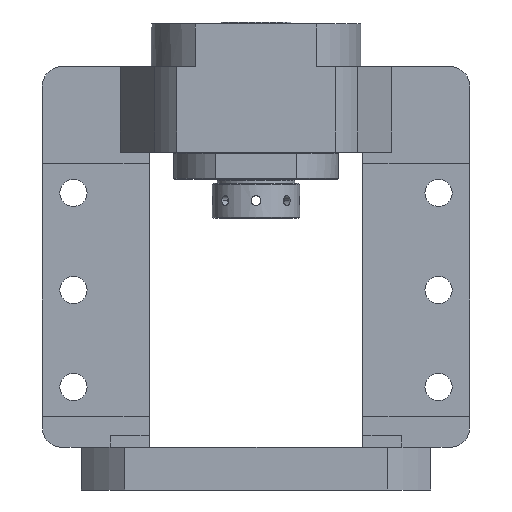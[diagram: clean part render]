
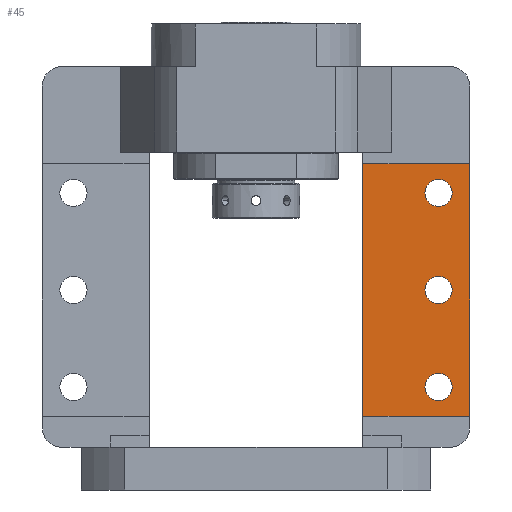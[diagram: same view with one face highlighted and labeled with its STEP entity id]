
A CAD part, front view. The second image highlights one B-rep face of the part: STEP entity #45.
In plain terms, the highlighted planar face has unit normal (0, -1, 0).
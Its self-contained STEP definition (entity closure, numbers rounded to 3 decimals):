
#45 = ADVANCED_FACE ( 'NONE', ( #12230, #15911, #11743, #7609 ), #473, .T. ) ;
#134 = ORIENTED_EDGE ( 'NONE', *, *, #649, .F. ) ;
#253 = DIRECTION ( 'NONE',  ( -1., 0., 0. ) ) ;
#260 = EDGE_CURVE ( 'NONE', #4722, #7947, #15419, .T. ) ;
#294 = VERTEX_POINT ( 'NONE', #8347 ) ;
#473 = PLANE ( 'NONE',  #2232 ) ;
#543 = DIRECTION ( 'NONE',  ( 0., 0., -1. ) ) ;
#608 = CARTESIAN_POINT ( 'NONE',  ( 110., 0., 225. ) ) ;
#649 = EDGE_CURVE ( 'NONE', #10225, #294, #19312, .T. ) ;
#897 = EDGE_CURVE ( 'NONE', #294, #10225, #16894, .T. ) ;
#1117 = EDGE_LOOP ( 'NONE', ( #3943, #134 ) ) ;
#1303 = DIRECTION ( 'NONE',  ( 0., 0., -1. ) ) ;
#1354 = CARTESIAN_POINT ( 'NONE',  ( 94., 0., 103. ) ) ;
#1492 = DIRECTION ( 'NONE',  ( 0., -1., 0. ) ) ;
#1558 = DIRECTION ( 'NONE',  ( 0., 0., -1. ) ) ;
#1979 = CIRCLE ( 'NONE', #10294, 7. ) ;
#2129 = DIRECTION ( 'NONE',  ( 1., 0., 0. ) ) ;
#2232 = AXIS2_PLACEMENT_3D ( 'NONE', #608, #9645, #8078 ) ;
#2838 = CARTESIAN_POINT ( 'NONE',  ( 94., 0., 60. ) ) ;
#2877 = CARTESIAN_POINT ( 'NONE',  ( 94., 0., 160. ) ) ;
#2998 = EDGE_CURVE ( 'NONE', #7947, #4722, #11187, .T. ) ;
#3278 = CARTESIAN_POINT ( 'NONE',  ( 55., 0., 38. ) ) ;
#3561 = ORIENTED_EDGE ( 'NONE', *, *, #19274, .F. ) ;
#3642 = ORIENTED_EDGE ( 'NONE', *, *, #10645, .F. ) ;
#3943 = ORIENTED_EDGE ( 'NONE', *, *, #897, .F. ) ;
#3964 = CARTESIAN_POINT ( 'NONE',  ( 94., 0., 53. ) ) ;
#4106 = DIRECTION ( 'NONE',  ( 0., 0., -1. ) ) ;
#4470 = CARTESIAN_POINT ( 'NONE',  ( 94., 0., 146. ) ) ;
#4722 = VERTEX_POINT ( 'NONE', #2838 ) ;
#4964 = VERTEX_POINT ( 'NONE', #14196 ) ;
#4983 = ORIENTED_EDGE ( 'NONE', *, *, #2998, .F. ) ;
#5566 = DIRECTION ( 'NONE',  ( 0., 0., -1. ) ) ;
#5983 = VERTEX_POINT ( 'NONE', #16276 ) ;
#5997 = EDGE_CURVE ( 'NONE', #5983, #7491, #9689, .T. ) ;
#6007 = LINE ( 'NONE', #8370, #14320 ) ;
#6665 = ORIENTED_EDGE ( 'NONE', *, *, #8690, .T. ) ;
#7021 = ORIENTED_EDGE ( 'NONE', *, *, #9968, .T. ) ;
#7119 = AXIS2_PLACEMENT_3D ( 'NONE', #7749, #18413, #1303 ) ;
#7256 = DIRECTION ( 'NONE',  ( 0., -1., 0. ) ) ;
#7491 = VERTEX_POINT ( 'NONE', #10588 ) ;
#7609 = FACE_OUTER_BOUND ( 'NONE', #16057, .T. ) ;
#7749 = CARTESIAN_POINT ( 'NONE',  ( 94., 0., 103. ) ) ;
#7947 = VERTEX_POINT ( 'NONE', #13240 ) ;
#8078 = DIRECTION ( 'NONE',  ( 0., 0., -1. ) ) ;
#8347 = CARTESIAN_POINT ( 'NONE',  ( 94., 0., 96. ) ) ;
#8370 = CARTESIAN_POINT ( 'NONE',  ( 110., 0., 38. ) ) ;
#8657 = VECTOR ( 'NONE', #253, 1000. ) ;
#8690 = EDGE_CURVE ( 'NONE', #5983, #4964, #12796, .T. ) ;
#8905 = DIRECTION ( 'NONE',  ( 0., -1., 0. ) ) ;
#9362 = VECTOR ( 'NONE', #12388, 1000. ) ;
#9588 = AXIS2_PLACEMENT_3D ( 'NONE', #16122, #8905, #9911 ) ;
#9636 = EDGE_LOOP ( 'NONE', ( #3561, #3642 ) ) ;
#9645 = DIRECTION ( 'NONE',  ( 0., -1., 0. ) ) ;
#9654 = CARTESIAN_POINT ( 'NONE',  ( 94., 0., 110. ) ) ;
#9689 = LINE ( 'NONE', #19413, #10166 ) ;
#9867 = VERTEX_POINT ( 'NONE', #2877 ) ;
#9911 = DIRECTION ( 'NONE',  ( 0., 0., -1. ) ) ;
#9913 = DIRECTION ( 'NONE',  ( 0., -1., 0. ) ) ;
#9968 = EDGE_CURVE ( 'NONE', #4964, #10139, #17676, .T. ) ;
#10139 = VERTEX_POINT ( 'NONE', #3278 ) ;
#10166 = VECTOR ( 'NONE', #4106, 1000. ) ;
#10225 = VERTEX_POINT ( 'NONE', #9654 ) ;
#10294 = AXIS2_PLACEMENT_3D ( 'NONE', #16607, #7256, #18170 ) ;
#10588 = CARTESIAN_POINT ( 'NONE',  ( 110., 0., 38. ) ) ;
#10645 = EDGE_CURVE ( 'NONE', #9867, #14744, #1979, .T. ) ;
#11187 = CIRCLE ( 'NONE', #13539, 7. ) ;
#11743 = FACE_BOUND ( 'NONE', #1117, .T. ) ;
#12230 = FACE_BOUND ( 'NONE', #9636, .T. ) ;
#12388 = DIRECTION ( 'NONE',  ( 0., 0., -1. ) ) ;
#12796 = LINE ( 'NONE', #14286, #8657 ) ;
#13240 = CARTESIAN_POINT ( 'NONE',  ( 94., 0., 46. ) ) ;
#13539 = AXIS2_PLACEMENT_3D ( 'NONE', #3964, #14915, #5566 ) ;
#13870 = ORIENTED_EDGE ( 'NONE', *, *, #18392, .T. ) ;
#14196 = CARTESIAN_POINT ( 'NONE',  ( 55., 0., 168. ) ) ;
#14286 = CARTESIAN_POINT ( 'NONE',  ( 110., 0., 168. ) ) ;
#14320 = VECTOR ( 'NONE', #2129, 1000. ) ;
#14744 = VERTEX_POINT ( 'NONE', #4470 ) ;
#14915 = DIRECTION ( 'NONE',  ( 0., -1., 0. ) ) ;
#15419 = CIRCLE ( 'NONE', #9588, 7. ) ;
#15911 = FACE_BOUND ( 'NONE', #16243, .T. ) ;
#16057 = EDGE_LOOP ( 'NONE', ( #19916, #6665, #7021, #13870 ) ) ;
#16122 = CARTESIAN_POINT ( 'NONE',  ( 94., 0., 53. ) ) ;
#16243 = EDGE_LOOP ( 'NONE', ( #4983, #19619 ) ) ;
#16276 = CARTESIAN_POINT ( 'NONE',  ( 110., 0., 168. ) ) ;
#16541 = AXIS2_PLACEMENT_3D ( 'NONE', #1354, #1492, #1558 ) ;
#16607 = CARTESIAN_POINT ( 'NONE',  ( 94., 0., 153. ) ) ;
#16894 = CIRCLE ( 'NONE', #16541, 7. ) ;
#17676 = LINE ( 'NONE', #18616, #9362 ) ;
#18170 = DIRECTION ( 'NONE',  ( 0., 0., -1. ) ) ;
#18392 = EDGE_CURVE ( 'NONE', #10139, #7491, #6007, .T. ) ;
#18413 = DIRECTION ( 'NONE',  ( 0., -1., 0. ) ) ;
#18462 = CIRCLE ( 'NONE', #19958, 7. ) ;
#18616 = CARTESIAN_POINT ( 'NONE',  ( 55., 0., 225. ) ) ;
#19272 = CARTESIAN_POINT ( 'NONE',  ( 94., 0., 153. ) ) ;
#19274 = EDGE_CURVE ( 'NONE', #14744, #9867, #18462, .T. ) ;
#19312 = CIRCLE ( 'NONE', #7119, 7. ) ;
#19413 = CARTESIAN_POINT ( 'NONE',  ( 110., 0., 225. ) ) ;
#19619 = ORIENTED_EDGE ( 'NONE', *, *, #260, .F. ) ;
#19916 = ORIENTED_EDGE ( 'NONE', *, *, #5997, .F. ) ;
#19958 = AXIS2_PLACEMENT_3D ( 'NONE', #19272, #9913, #543 ) ;
